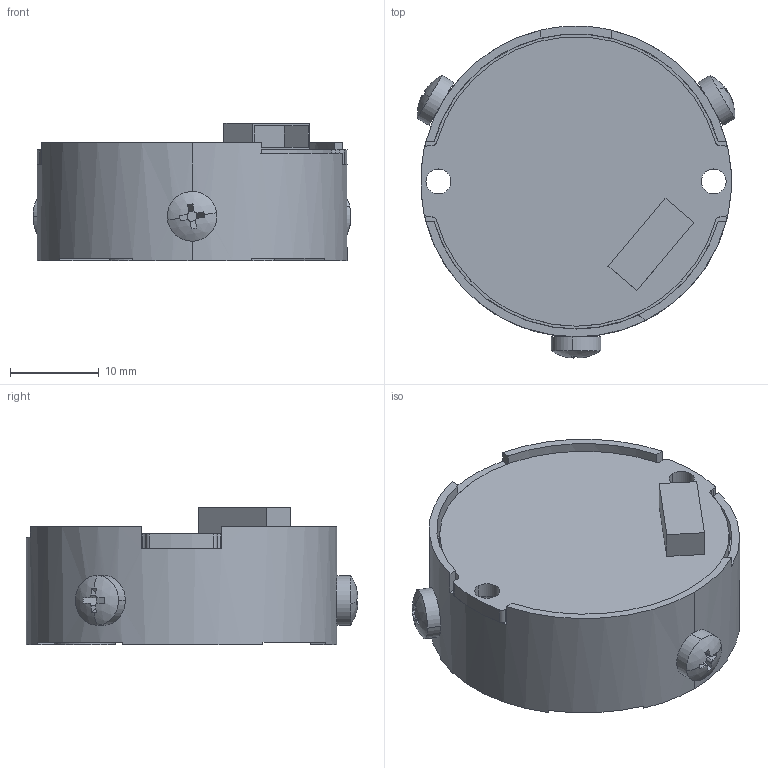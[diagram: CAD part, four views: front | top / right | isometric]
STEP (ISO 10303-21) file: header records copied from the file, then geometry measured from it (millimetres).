
FILE_DESCRIPTION (( 'STEP AP214' ), '1' );
FILE_NAME ('35分体光电编码器塑料款-简化数模-调坐标系.STEP', '2023-01-04T10:17:49', ( '' ), ( '' ), 'SwSTEP 2.0', 'SolidWorks 2016', '' );
FILE_SCHEMA (( 'AUTOMOTIVE_DESIGN' ));
Length unit declared in the file: millimetre
Products named in the file (1): 35分体光电编码器塑料款-简化数模-调坐标系
Bounding box: 35.77 x 37.37 x 15.49 mm (x, y, z)
Volume: 9140.3 mm3; surface area: 7966.7 mm2
Topology: 6 solids, 8 shells, 228 faces, 616 edges, 408 vertices
Faces by surface type: plane 109, cylinder 80, cone 23, bspline 10, sphere 6
Entity records: 10854 total; most frequent: CARTESIAN_POINT 2606, ORIENTED_EDGE 1232, DIRECTION 1151, EDGE_CURVE 616, AXIS2_PLACEMENT_3D 453, VERTEX_POINT 408, EDGE_LOOP 256, VECTOR 245
